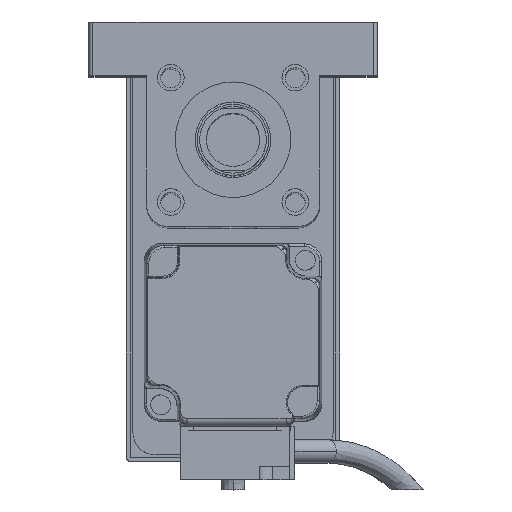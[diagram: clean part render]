
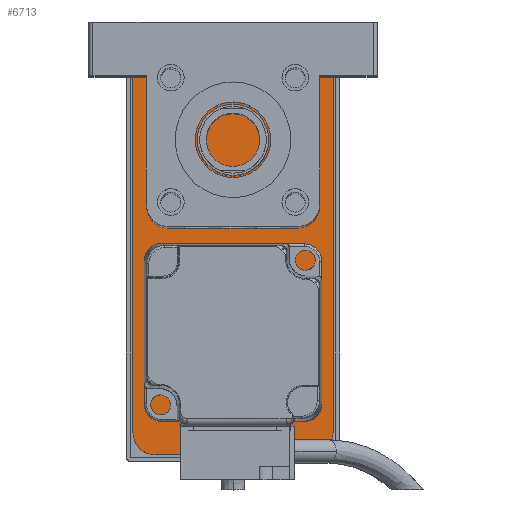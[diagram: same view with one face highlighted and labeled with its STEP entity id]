
A CAD part, top view. The second image highlights one B-rep face of the part: STEP entity #6713.
In plain terms, the highlighted planar face has unit normal (0, 0, 1).
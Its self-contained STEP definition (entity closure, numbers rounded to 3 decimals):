
#105 = CARTESIAN_POINT ( 'NONE',  ( 17.5, 40., 10. ) ) ;
#472 = CARTESIAN_POINT ( 'NONE',  ( 22.5, -40., 10. ) ) ;
#514 = CARTESIAN_POINT ( 'NONE',  ( 22.5, -45., 10. ) ) ;
#711 = DIRECTION ( 'NONE',  ( 1., 0., 0. ) ) ;
#952 = DIRECTION ( 'NONE',  ( 1., 0., 0. ) ) ;
#973 = DIRECTION ( 'NONE',  ( 0., 0., 1. ) ) ;
#1336 = EDGE_CURVE ( 'NONE', #8469, #22832, #2770, .T. ) ;
#1496 = CARTESIAN_POINT ( 'NONE',  ( -22.5, -40., 10. ) ) ;
#1804 = CARTESIAN_POINT ( 'NONE',  ( 22.5, 40., 10. ) ) ;
#2119 = DIRECTION ( 'NONE',  ( 1., 0., 0. ) ) ;
#2745 = DIRECTION ( 'NONE',  ( 1., 0., 0. ) ) ;
#2770 = CIRCLE ( 'NONE', #23042, 5. ) ;
#2885 = VERTEX_POINT ( 'NONE', #472 ) ;
#2932 = CARTESIAN_POINT ( 'NONE',  ( -17.5, -40., 10. ) ) ;
#2985 = VERTEX_POINT ( 'NONE', #6526 ) ;
#3550 = CARTESIAN_POINT ( 'NONE',  ( -22.5, -45., 10. ) ) ;
#3717 = CARTESIAN_POINT ( 'NONE',  ( 17.5, -40., 10. ) ) ;
#3762 = CIRCLE ( 'NONE', #14634, 5. ) ;
#3923 = VERTEX_POINT ( 'NONE', #5070 ) ;
#4120 = CARTESIAN_POINT ( 'NONE',  ( 0., 0., 10. ) ) ;
#4740 = VECTOR ( 'NONE', #10619, 1000. ) ;
#4773 = CARTESIAN_POINT ( 'NONE',  ( -17.5, 40., 10. ) ) ;
#5070 = CARTESIAN_POINT ( 'NONE',  ( 17.5, -45., 10. ) ) ;
#5488 = VECTOR ( 'NONE', #23008, 1000. ) ;
#5705 = DIRECTION ( 'NONE',  ( 0., 0., 1. ) ) ;
#5751 = CARTESIAN_POINT ( 'NONE',  ( -17.5, -45., 10. ) ) ;
#6083 = EDGE_CURVE ( 'NONE', #3923, #2885, #8342, .T. ) ;
#6128 = AXIS2_PLACEMENT_3D ( 'NONE', #4120, #13697, #23628 ) ;
#6526 = CARTESIAN_POINT ( 'NONE',  ( 17.5, 45., 10. ) ) ;
#6713 = ADVANCED_FACE ( 'NONE', ( #12622 ), #15940, .T. ) ;
#7581 = DIRECTION ( 'NONE',  ( 1., 0., 0. ) ) ;
#7904 = EDGE_CURVE ( 'NONE', #22832, #3923, #13520, .T. ) ;
#8342 = CIRCLE ( 'NONE', #10244, 5. ) ;
#8469 = VERTEX_POINT ( 'NONE', #1496 ) ;
#8908 = LINE ( 'NONE', #11543, #10166 ) ;
#10088 = ORIENTED_EDGE ( 'NONE', *, *, #1336, .T. ) ;
#10166 = VECTOR ( 'NONE', #11456, 1000. ) ;
#10244 = AXIS2_PLACEMENT_3D ( 'NONE', #3717, #5705, #7581 ) ;
#10603 = CARTESIAN_POINT ( 'NONE',  ( 22.5, -45., 10. ) ) ;
#10619 = DIRECTION ( 'NONE',  ( 0., 1., 0. ) ) ;
#11456 = DIRECTION ( 'NONE',  ( -1., 0., 0. ) ) ;
#11543 = CARTESIAN_POINT ( 'NONE',  ( 22.5, 45., 10. ) ) ;
#12127 = DIRECTION ( 'NONE',  ( 0., 0., 1. ) ) ;
#12356 = EDGE_CURVE ( 'NONE', #2885, #14769, #21743, .T. ) ;
#12476 = ORIENTED_EDGE ( 'NONE', *, *, #23262, .T. ) ;
#12622 = FACE_OUTER_BOUND ( 'NONE', #22870, .T. ) ;
#12789 = ORIENTED_EDGE ( 'NONE', *, *, #6083, .T. ) ;
#12897 = VECTOR ( 'NONE', #2745, 1000. ) ;
#13520 = LINE ( 'NONE', #10603, #12897 ) ;
#13697 = DIRECTION ( 'NONE',  ( 0., 0., 1. ) ) ;
#14634 = AXIS2_PLACEMENT_3D ( 'NONE', #4773, #973, #711 ) ;
#14747 = VERTEX_POINT ( 'NONE', #15776 ) ;
#14769 = VERTEX_POINT ( 'NONE', #1804 ) ;
#15311 = EDGE_CURVE ( 'NONE', #14769, #2985, #18123, .T. ) ;
#15776 = CARTESIAN_POINT ( 'NONE',  ( -22.5, 40., 10. ) ) ;
#15940 = PLANE ( 'NONE',  #6128 ) ;
#16379 = ORIENTED_EDGE ( 'NONE', *, *, #19175, .T. ) ;
#18123 = CIRCLE ( 'NONE', #20370, 5. ) ;
#18540 = ORIENTED_EDGE ( 'NONE', *, *, #12356, .T. ) ;
#18790 = LINE ( 'NONE', #3550, #5488 ) ;
#19175 = EDGE_CURVE ( 'NONE', #21054, #14747, #3762, .T. ) ;
#20370 = AXIS2_PLACEMENT_3D ( 'NONE', #105, #12127, #2119 ) ;
#21054 = VERTEX_POINT ( 'NONE', #24877 ) ;
#21743 = LINE ( 'NONE', #514, #4740 ) ;
#22042 = ORIENTED_EDGE ( 'NONE', *, *, #15311, .T. ) ;
#22424 = ORIENTED_EDGE ( 'NONE', *, *, #22699, .T. ) ;
#22543 = DIRECTION ( 'NONE',  ( 0., 0., 1. ) ) ;
#22699 = EDGE_CURVE ( 'NONE', #2985, #21054, #8908, .T. ) ;
#22832 = VERTEX_POINT ( 'NONE', #5751 ) ;
#22870 = EDGE_LOOP ( 'NONE', ( #18540, #22042, #22424, #16379, #12476, #10088, #24518, #12789 ) ) ;
#23008 = DIRECTION ( 'NONE',  ( 0., -1., 0. ) ) ;
#23042 = AXIS2_PLACEMENT_3D ( 'NONE', #2932, #22543, #952 ) ;
#23262 = EDGE_CURVE ( 'NONE', #14747, #8469, #18790, .T. ) ;
#23628 = DIRECTION ( 'NONE',  ( 1., 0., 0. ) ) ;
#24518 = ORIENTED_EDGE ( 'NONE', *, *, #7904, .T. ) ;
#24877 = CARTESIAN_POINT ( 'NONE',  ( -17.5, 45., 10. ) ) ;
